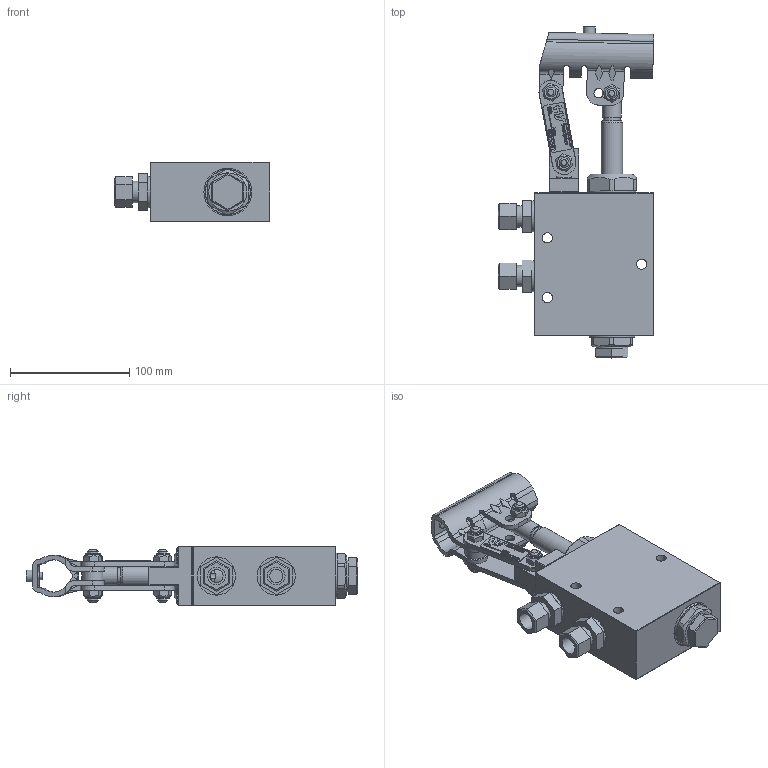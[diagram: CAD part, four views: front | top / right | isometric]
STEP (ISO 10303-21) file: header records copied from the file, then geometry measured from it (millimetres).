
FILE_DESCRIPTION((''),'2;1');
FILE_NAME('G:\HV_HYDRAULIC\AZIENDA_HV_HYDRAULIC\ARCHIVIO_DISEGNI\5_PRODOTTI_FINITI\1_POMPE_MANUALI\6075_PMP_25\6075.0101_PMP_25_e_(HV)\6075.0101.stp','2024-03-29T11:49:43',('christian.scardovi'),(''),'Autodesk Inventor 2013','Autodesk Inventor 2013','');
FILE_SCHEMA(('AUTOMOTIVE_DESIGN { 1 0 10303 214 1 1 1 1 }'));
Length unit declared in the file: millimetre
Products named in the file (1): 6075.0101
Bounding box: 130 x 277.96 x 50 mm (x, y, z)
Surface area: 124184.3 mm2
Topology: 2 solids, 3 shells, 1162 faces, 2920 edges, 1872 vertices
Faces by surface type: plane 707, cylinder 178, bspline 155, cone 99, torus 23
Full cylindrical faces by diameter (mm): 4 x2, 5 x3, 6 x4, 6.5 x1, 8 x10, 8.5 x3, 9 x1, 9.2 x1, 10 x1, 10.376 x1, 11 x2, 11.05 x6, 12 x1, 13 x2, 14 x3, 14.396 x1, 15 x3, 16 x4, 17.6 x1, 18 x6, 18.631 x2, 19 x2, 20 x1, 20.376 x2, 22 x1, 23 x1, 24 x2, 25 x2, 26 x3, 27 x1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
Entity records: 35682 total; most frequent: CARTESIAN_POINT 8748, ORIENTED_EDGE 5442, DIRECTION 4734, EDGE_CURVE 2721, VERTEX_POINT 1822, VECTOR 1736, LINE 1736, AXIS2_PLACEMENT_3D 1499
